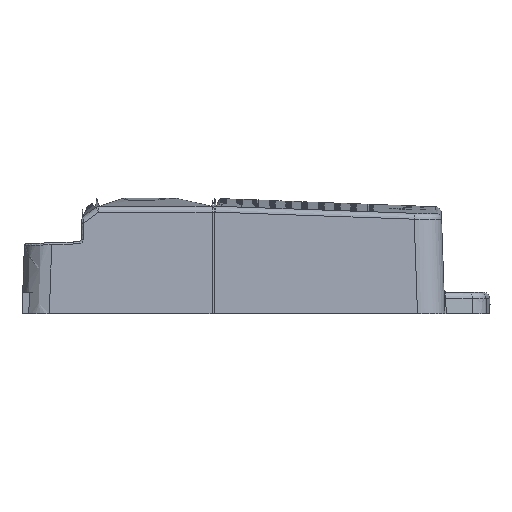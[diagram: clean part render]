
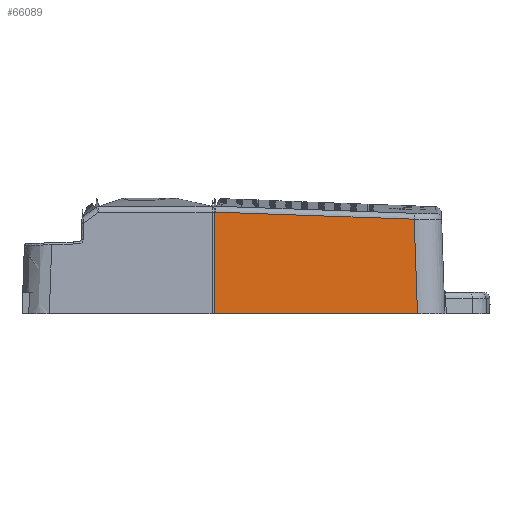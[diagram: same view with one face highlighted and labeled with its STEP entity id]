
A CAD part, left-side view. The second image highlights one B-rep face of the part: STEP entity #66089.
In plain terms, the highlighted planar face has unit normal (-0.999, 0, 0.035).
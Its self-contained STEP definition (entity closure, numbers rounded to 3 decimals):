
#66089=ADVANCED_FACE('',(#77778),#293908,.T.);
#77778=FACE_OUTER_BOUND('',#89730,.T.);
#89730=EDGE_LOOP('',(#104637,#104638,#104639,#104640,#104641,#104642));
#104637=ORIENTED_EDGE('',*,*,#164431,.F.);
#104638=ORIENTED_EDGE('',*,*,#164432,.T.);
#104639=ORIENTED_EDGE('',*,*,#164433,.T.);
#104640=ORIENTED_EDGE('',*,*,#164434,.T.);
#104641=ORIENTED_EDGE('',*,*,#164436,.T.);
#104642=ORIENTED_EDGE('',*,*,#164113,.F.);
#164113=EDGE_CURVE('',#255971,#255972,#208559,.T.);
#164431=EDGE_CURVE('',#256167,#255971,#220283,.T.);
#164432=EDGE_CURVE('',#256167,#256168,#220284,.T.);
#164433=EDGE_CURVE('',#256168,#256169,#220285,.T.);
#164434=EDGE_CURVE('',#256169,#256170,#220286,.T.);
#164436=EDGE_CURVE('',#256170,#255972,#220288,.T.);
#208559=(
BOUNDED_CURVE()
B_SPLINE_CURVE(3,(#355901,#355902,#355903,#355904),.UNSPECIFIED.,.F.,.F.)
B_SPLINE_CURVE_WITH_KNOTS((4,4),(-48.704,0.),.UNSPECIFIED.)
CURVE()
GEOMETRIC_REPRESENTATION_ITEM()
RATIONAL_B_SPLINE_CURVE((1.,1.,1.,1.))
REPRESENTATION_ITEM('')
);
#220283=B_SPLINE_CURVE_WITH_KNOTS('',3,(#357627,#357628,#357629,#357630),
 .UNSPECIFIED.,.F.,.F.,(4,4),(0.,0.),.UNSPECIFIED.);
#220284=B_SPLINE_CURVE_WITH_KNOTS('',1,(#357631,#357632),.UNSPECIFIED.,
 .F.,.F.,(2,2),(0.,0.037),.UNSPECIFIED.);
#220285=B_SPLINE_CURVE_WITH_KNOTS('',1,(#357633,#357634),.UNSPECIFIED.,
 .F.,.F.,(2,2),(-24.871,0.),.UNSPECIFIED.);
#220286=B_SPLINE_CURVE_WITH_KNOTS('',1,(#357635,#357636),.UNSPECIFIED.,
 .F.,.F.,(2,2),(0.,49.854),.UNSPECIFIED.);
#220288=B_SPLINE_CURVE_WITH_KNOTS('',1,(#357639,#357640),.UNSPECIFIED.,
 .F.,.F.,(2,2),(0.,23.146),.UNSPECIFIED.);
#255971=VERTEX_POINT('',#343688);
#255972=VERTEX_POINT('',#343689);
#256167=VERTEX_POINT('',#343884);
#256168=VERTEX_POINT('',#343885);
#256169=VERTEX_POINT('',#343886);
#256170=VERTEX_POINT('',#343887);
#293908=PLANE('',#304717);
#304717=AXIS2_PLACEMENT_3D('',#322200,#311346,$);
#311346=DIRECTION('',(-0.999,0.,0.035));
#322200=CARTESIAN_POINT('',(-88.344,1.102,-15.187));
#343688=CARTESIAN_POINT('',(-87.39,55.569,12.15));
#343689=CARTESIAN_POINT('',(-87.45,6.896,10.418));
#343884=CARTESIAN_POINT('',(-87.39,55.906,12.156));
#343885=CARTESIAN_POINT('',(-87.39,55.943,12.156));
#343886=CARTESIAN_POINT('',(-88.258,55.943,-12.7));
#343887=CARTESIAN_POINT('',(-88.258,6.089,-12.7));
#355901=CARTESIAN_POINT('',(-87.39,55.569,12.15));
#355902=CARTESIAN_POINT('',(-87.41,39.345,11.572));
#355903=CARTESIAN_POINT('',(-87.43,23.12,10.995));
#355904=CARTESIAN_POINT('',(-87.45,6.896,10.418));
#357627=CARTESIAN_POINT('',(-87.39,55.906,12.156));
#357628=CARTESIAN_POINT('',(-87.39,55.794,12.156));
#357629=CARTESIAN_POINT('',(-87.39,55.681,12.154));
#357630=CARTESIAN_POINT('',(-87.39,55.569,12.15));
#357631=CARTESIAN_POINT('',(-87.39,55.906,12.156));
#357632=CARTESIAN_POINT('',(-87.39,55.943,12.156));
#357633=CARTESIAN_POINT('',(-87.39,55.943,12.156));
#357634=CARTESIAN_POINT('',(-88.258,55.943,-12.7));
#357635=CARTESIAN_POINT('',(-88.258,55.943,-12.7));
#357636=CARTESIAN_POINT('',(-88.258,6.089,-12.7));
#357639=CARTESIAN_POINT('',(-88.258,6.089,-12.7));
#357640=CARTESIAN_POINT('',(-87.45,6.896,10.418));
